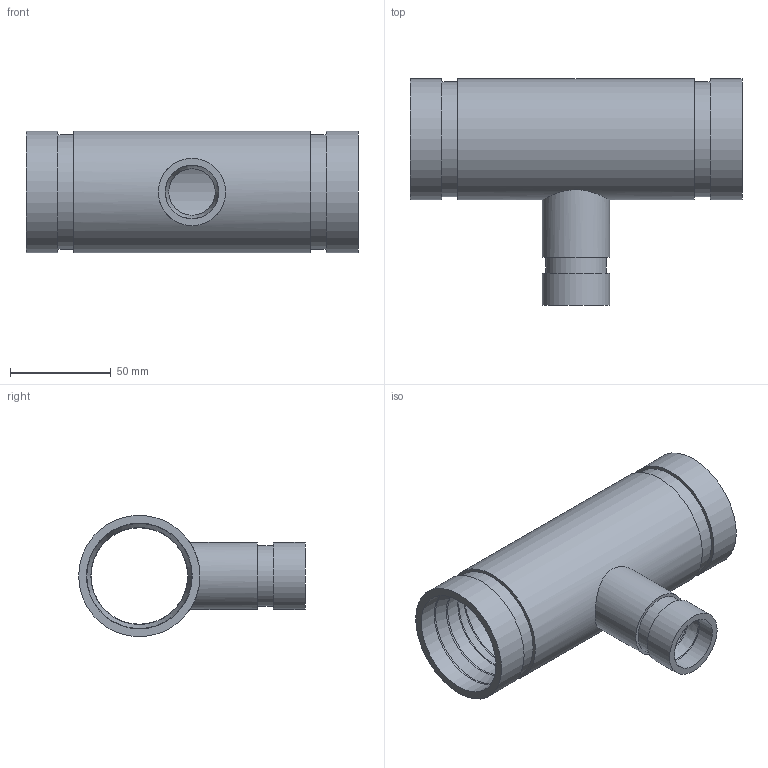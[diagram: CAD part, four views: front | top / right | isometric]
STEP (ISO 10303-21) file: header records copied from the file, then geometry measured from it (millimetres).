
FILE_DESCRIPTION(/* description */ ('VIC REDUCING TEE No 425H-SS','CAx-IF Rec.Pracs.---Representation and Presentation of Product Manufacturing Information (PMI)---4.0---2014-10-13'),/* implementation_level */ '2;1');
FILE_NAME(/* name */ 'C:\Users\kkamble\AppData\Roaming\Autodesk\ApplicationPlugins\Back Up\Victaulic_SS-OGS_Tee Reducing_Sched 40S_No 425H SS (OGS)\Victaulic_SS-OGS_Tee Reducing_Sched 40S_No 425H SS (OGS)_02.0x01.0 (50x25).stp',/* time_stamp */ '2020-08-27T17:19:23+06:00',/* author */ ('CORINNE GRAY'),/* organization */ ('Victaulic'),/* preprocessor_version */ 'ST-DEVELOPER v17.2',/* originating_system */ 'Autodesk Inventor 2019',/* authorisation */ '');
FILE_SCHEMA (('AP242_MANAGED_MODEL_BASED_3D_ENGINEERING_MIM_LF { 1 0 10303 442 1 1 4 }'));
Length unit declared in the file: inch
Products named in the file (1): 425H SS-02.0x01.0
Bounding box: 165.1 x 112.71 x 60.33 mm (x, y, z)
Volume: 134941.3 mm3; surface area: 70337.4 mm2
Topology: 1 solids, 1 shells, 43 faces, 134 edges, 100 vertices
Faces by surface type: cylinder 16, torus 12, plane 9, cone 6
Full cylindrical faces by diameter (mm): 23.114 x1, 26.67 x2, 30.226 x1, 33.401 x2, 48.006 x2, 52.578 x3, 57.15 x2, 60.325 x3
Entity records: 1895 total; most frequent: CARTESIAN_POINT 403, DIRECTION 352, ORIENTED_EDGE 268, AXIS2_PLACEMENT_3D 165, EDGE_CURVE 134, CIRCLE 108, VERTEX_POINT 100, EDGE_LOOP 54
